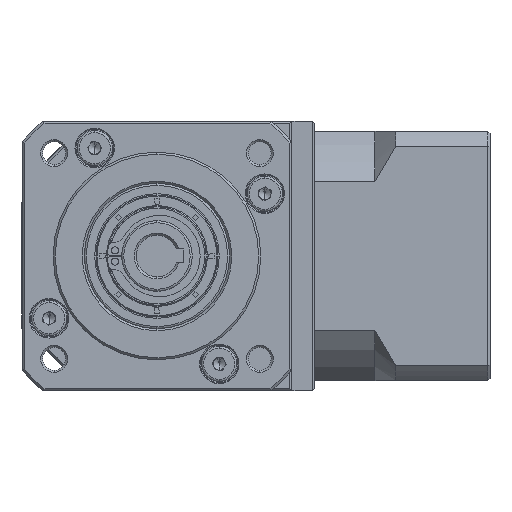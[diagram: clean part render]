
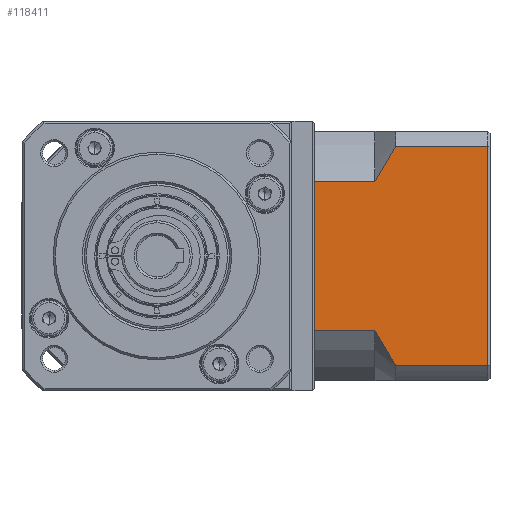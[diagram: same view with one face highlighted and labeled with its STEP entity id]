
A CAD part, left-side view. The second image highlights one B-rep face of the part: STEP entity #118411.
In plain terms, the highlighted planar face has unit normal (-1, 0, 0).
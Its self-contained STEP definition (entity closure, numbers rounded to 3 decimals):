
#211 = CARTESIAN_POINT ( 'NONE',  ( -9.184, -55.78, -154.091 ) ) ;
#6122 = CARTESIAN_POINT ( 'NONE',  ( -9.184, -50.78, -154.091 ) ) ;
#8622 = CARTESIAN_POINT ( 'NONE',  ( -9.184, -36.28, -157.634 ) ) ;
#10191 = VECTOR ( 'NONE', #130536, 1000. ) ;
#11843 = VERTEX_POINT ( 'NONE', #71067 ) ;
#13517 = DIRECTION ( 'NONE',  ( 0., -1., 0. ) ) ;
#14807 = CARTESIAN_POINT ( 'NONE',  ( -9.184, -36.28, -109.606 ) ) ;
#15873 = CARTESIAN_POINT ( 'NONE',  ( -9.184, -55.78, -101.176 ) ) ;
#17404 = LINE ( 'NONE', #8622, #46496 ) ;
#28325 = CARTESIAN_POINT ( 'NONE',  ( -9.184, -52.331, -106.722 ) ) ;
#28762 = ORIENTED_EDGE ( 'NONE', *, *, #150867, .T. ) ;
#34907 = EDGE_CURVE ( 'NONE', #67481, #155076, #39261, .T. ) ;
#39261 = LINE ( 'NONE', #6122, #10191 ) ;
#40785 = CARTESIAN_POINT ( 'NONE',  ( -9.184, -50.78, -109.606 ) ) ;
#40857 = CARTESIAN_POINT ( 'NONE',  ( -9.184, -78.48, -157.634 ) ) ;
#43329 = CARTESIAN_POINT ( 'NONE',  ( -9.184, -77.98, -154.091 ) ) ;
#43630 = VECTOR ( 'NONE', #136214, 1000. ) ;
#46496 = VECTOR ( 'NONE', #83410, 1000. ) ;
#46688 = CARTESIAN_POINT ( 'NONE',  ( -9.184, -50.78, -101.176 ) ) ;
#46858 = CARTESIAN_POINT ( 'NONE',  ( -9.184, -55.78, -154.091 ) ) ;
#53292 = DIRECTION ( 'NONE',  ( 0., 1., 0. ) ) ;
#53798 = EDGE_LOOP ( 'NONE', ( #94677, #144861, #101908, #70030, #53977, #28762, #111664, #155982 ) ) ;
#53977 = ORIENTED_EDGE ( 'NONE', *, *, #129539, .F. ) ;
#54450 = VERTEX_POINT ( 'NONE', #131833 ) ;
#59137 = DIRECTION ( 'NONE',  ( 0., -1., 0. ) ) ;
#59313 = VECTOR ( 'NONE', #72862, 1000. ) ;
#60372 = CARTESIAN_POINT ( 'NONE',  ( -9.184, -50.78, -145.661 ) ) ;
#61314 = CARTESIAN_POINT ( 'NONE',  ( -9.184, -36.28, -145.661 ) ) ;
#61988 = CARTESIAN_POINT ( 'NONE',  ( -9.184, -52.33, -148.543 ) ) ;
#62122 = CARTESIAN_POINT ( 'NONE',  ( -9.184, -77.98, -157.634 ) ) ;
#64534 = VERTEX_POINT ( 'NONE', #14807 ) ;
#67481 = VERTEX_POINT ( 'NONE', #43329 ) ;
#70030 = ORIENTED_EDGE ( 'NONE', *, *, #99985, .T. ) ;
#71067 = CARTESIAN_POINT ( 'NONE',  ( -9.184, -55.78, -101.176 ) ) ;
#71899 = EDGE_CURVE ( 'NONE', #67481, #108483, #121049, .T. ) ;
#72862 = DIRECTION ( 'NONE',  ( 0., 1., 0. ) ) ;
#73949 = CARTESIAN_POINT ( 'NONE',  ( -9.184, -51.53, -147.118 ) ) ;
#74467 = CARTESIAN_POINT ( 'NONE',  ( -9.184, -54.878, -152.728 ) ) ;
#75312 = CARTESIAN_POINT ( 'NONE',  ( -9.184, -50.78, -109.606 ) ) ;
#76609 = CARTESIAN_POINT ( 'NONE',  ( -9.184, -50.78, -109.606 ) ) ;
#77626 = VECTOR ( 'NONE', #13517, 1000. ) ;
#78943 = EDGE_CURVE ( 'NONE', #54450, #155076, #159412, .T. ) ;
#80299 = EDGE_CURVE ( 'NONE', #54450, #159554, #96077, .T. ) ;
#83410 = DIRECTION ( 'NONE',  ( 0., 0., -1. ) ) ;
#90065 = CARTESIAN_POINT ( 'NONE',  ( -9.184, -54.88, -102.536 ) ) ;
#94677 = ORIENTED_EDGE ( 'NONE', *, *, #34907, .F. ) ;
#95997 = FACE_OUTER_BOUND ( 'NONE', #53798, .T. ) ;
#96077 = LINE ( 'NONE', #60372, #59313 ) ;
#97393 = AXIS2_PLACEMENT_3D ( 'NONE', #40857, #127366, #53292 ) ;
#99985 = EDGE_CURVE ( 'NONE', #11843, #130631, #128447, .T. ) ;
#101908 = ORIENTED_EDGE ( 'NONE', *, *, #157109, .F. ) ;
#102433 = CARTESIAN_POINT ( 'NONE',  ( -9.184, -54.007, -103.915 ) ) ;
#108483 = VERTEX_POINT ( 'NONE', #114080 ) ;
#110384 = LINE ( 'NONE', #75312, #77626 ) ;
#111664 = ORIENTED_EDGE ( 'NONE', *, *, #80299, .F. ) ;
#114080 = CARTESIAN_POINT ( 'NONE',  ( -9.184, -77.98, -101.176 ) ) ;
#114368 = PLANE ( 'NONE',  #97393 ) ;
#114840 = CARTESIAN_POINT ( 'NONE',  ( -9.184, -51.528, -108.154 ) ) ;
#118411 = ADVANCED_FACE ( 'NONE', ( #95997 ), #114368, .F. ) ;
#121049 = LINE ( 'NONE', #62122, #43630 ) ;
#127366 = DIRECTION ( 'NONE',  ( 1., 0., 0. ) ) ;
#128447 = B_SPLINE_CURVE_WITH_KNOTS ( 'NONE', 3,
 ( #15873, #90065, #102433, #28325, #114840, #40785 ),
 .UNSPECIFIED., .F., .F.,
 ( 4, 2, 4 ),
 ( 0.052, 0.057, 0.062 ),
 .UNSPECIFIED. ) ;
#129539 = EDGE_CURVE ( 'NONE', #64534, #130631, #110384, .T. ) ;
#130536 = DIRECTION ( 'NONE',  ( 0., 1., 0. ) ) ;
#130631 = VERTEX_POINT ( 'NONE', #76609 ) ;
#131833 = CARTESIAN_POINT ( 'NONE',  ( -9.184, -50.78, -145.661 ) ) ;
#134637 = VECTOR ( 'NONE', #59137, 1000. ) ;
#135546 = CARTESIAN_POINT ( 'NONE',  ( -9.184, -50.78, -145.661 ) ) ;
#136214 = DIRECTION ( 'NONE',  ( 0., 0., 1. ) ) ;
#138481 = LINE ( 'NONE', #46688, #134637 ) ;
#144861 = ORIENTED_EDGE ( 'NONE', *, *, #71899, .T. ) ;
#148465 = CARTESIAN_POINT ( 'NONE',  ( -9.184, -54.004, -151.349 ) ) ;
#150867 = EDGE_CURVE ( 'NONE', #64534, #159554, #17404, .T. ) ;
#155076 = VERTEX_POINT ( 'NONE', #46858 ) ;
#155982 = ORIENTED_EDGE ( 'NONE', *, *, #78943, .T. ) ;
#157109 = EDGE_CURVE ( 'NONE', #11843, #108483, #138481, .T. ) ;
#159412 = B_SPLINE_CURVE_WITH_KNOTS ( 'NONE', 3,
 ( #135546, #73949, #61988, #148465, #74467, #211 ),
 .UNSPECIFIED., .F., .F.,
 ( 4, 2, 4 ),
 ( 0.1, 0.104, 0.109 ),
 .UNSPECIFIED. ) ;
#159554 = VERTEX_POINT ( 'NONE', #61314 ) ;
